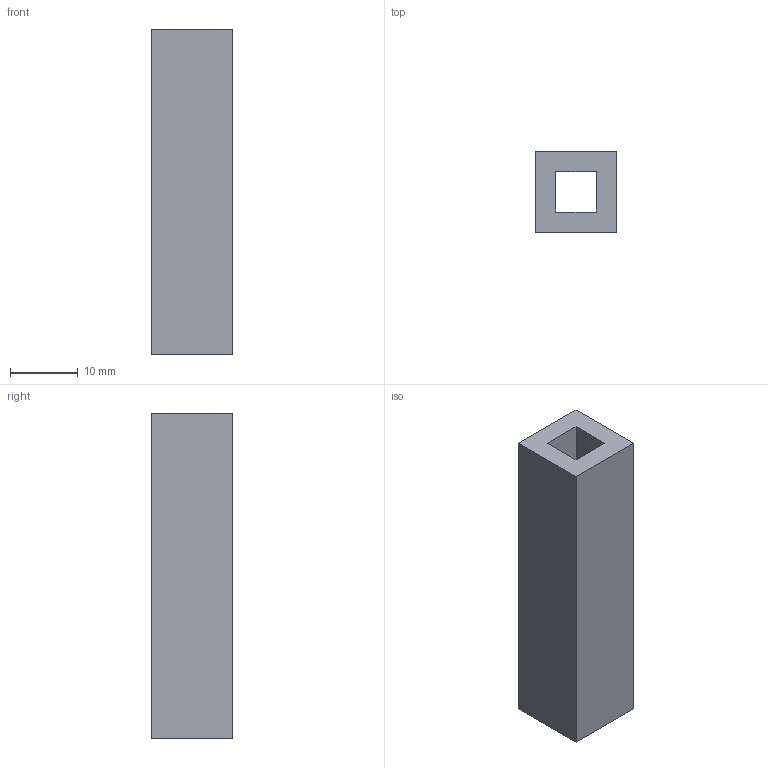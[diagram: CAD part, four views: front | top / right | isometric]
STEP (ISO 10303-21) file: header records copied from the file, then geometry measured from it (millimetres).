
FILE_DESCRIPTION(('Open CASCADE Model'),'2;1');
FILE_NAME('Open CASCADE Shape Model','2026-10-04T02:31:39',('Author'),( 'Open CASCADE'),'Open CASCADE STEP processor 8.0','Open CASCADE 8.0' ,'Unknown');
FILE_SCHEMA(('AUTOMOTIVE_DESIGN { 1 0 10303 214 1 1 1 1 }'));
Length unit declared in the file: millimetre
Products named in the file (1): Open CASCADE STEP translator 8.0 180
Bounding box: 12 x 12 x 48 mm (x, y, z)
Volume: 5184 mm3; surface area: 3672 mm2
Topology: 1 solids, 1 shells, 10 faces, 24 edges, 16 vertices
Faces by surface type: plane 10
Entity records: 598 total; most frequent: CARTESIAN_POINT 115, DIRECTION 78, LINE 56, VECTOR 56, ORIENTED_EDGE 48, PCURVE 48, DEFINITIONAL_REPRESENTATION 48, EDGE_CURVE 24
